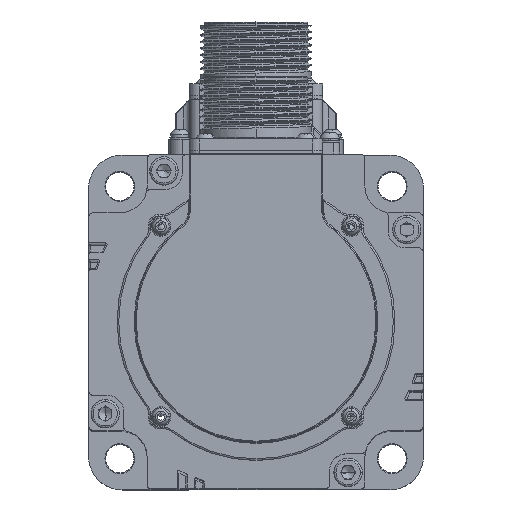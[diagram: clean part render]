
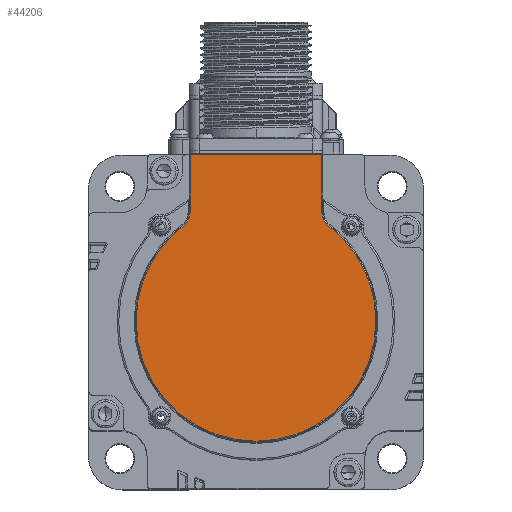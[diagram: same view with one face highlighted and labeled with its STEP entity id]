
A CAD part, top view. The second image highlights one B-rep face of the part: STEP entity #44206.
In plain terms, the highlighted planar face has unit normal (0, 0, 1).
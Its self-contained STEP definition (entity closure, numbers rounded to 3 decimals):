
#1276 = DIRECTION ( 'NONE',  ( 0., 0., 1. ) ) ;
#2215 = PLANE ( 'NONE',  #3202 ) ;
#2814 = EDGE_LOOP ( 'NONE', ( #78165, #70799, #22228, #91871, #25079, #83048, #26451, #65928 ) ) ;
#3202 = AXIS2_PLACEMENT_3D ( 'NONE', #17427, #1276, #9098 ) ;
#5188 = DIRECTION ( 'NONE',  ( 1., 0., 0. ) ) ;
#6034 = DIRECTION ( 'NONE',  ( 1., 0., 0. ) ) ;
#8591 = EDGE_CURVE ( 'NONE', #83988, #40283, #94898, .T. ) ;
#9098 = DIRECTION ( 'NONE',  ( 1., 0., 0. ) ) ;
#11658 = DIRECTION ( 'NONE',  ( 0., 1., 0. ) ) ;
#13100 = CARTESIAN_POINT ( 'NONE',  ( -51.772, -9.741, 336.1 ) ) ;
#17427 = CARTESIAN_POINT ( 'NONE',  ( -51.772, -9.741, 336.1 ) ) ;
#19198 = AXIS2_PLACEMENT_3D ( 'NONE', #87161, #81250, #72455 ) ;
#20297 = CARTESIAN_POINT ( 'NONE',  ( -87.572, -9.741, 336.1 ) ) ;
#22120 = CARTESIAN_POINT ( 'NONE',  ( -71.472, 22.881, 336.1 ) ) ;
#22228 = ORIENTED_EDGE ( 'NONE', *, *, #56326, .T. ) ;
#22442 = CIRCLE ( 'NONE', #88054, 35.8 ) ;
#23991 = CARTESIAN_POINT ( 'NONE',  ( -15.972, -9.741, 336.1 ) ) ;
#25079 = ORIENTED_EDGE ( 'NONE', *, *, #63163, .T. ) ;
#26451 = ORIENTED_EDGE ( 'NONE', *, *, #8591, .T. ) ;
#27186 = DIRECTION ( 'NONE',  ( 0., 0., 1. ) ) ;
#29954 = CARTESIAN_POINT ( 'NONE',  ( -51.772, -9.741, 336.1 ) ) ;
#30596 = CARTESIAN_POINT ( 'NONE',  ( -71.772, 39.959, 336.1 ) ) ;
#32761 = CARTESIAN_POINT ( 'NONE',  ( -32.072, 40.259, 336.1 ) ) ;
#35222 = EDGE_CURVE ( 'NONE', #40283, #84723, #77268, .T. ) ;
#37137 = VECTOR ( 'NONE', #11658, 1000. ) ;
#37537 = AXIS2_PLACEMENT_3D ( 'NONE', #13100, #72749, #5188 ) ;
#40099 = CARTESIAN_POINT ( 'NONE',  ( -73.549, 18.674, 336.1 ) ) ;
#40283 = VERTEX_POINT ( 'NONE', #54422 ) ;
#42235 = VERTEX_POINT ( 'NONE', #23991 ) ;
#44048 = EDGE_CURVE ( 'NONE', #80096, #84763, #76591, .T. ) ;
#44206 = ADVANCED_FACE ( 'NONE', ( #83973 ), #2215, .T. ) ;
#46108 = CARTESIAN_POINT ( 'NONE',  ( -71.472, 39.959, 336.1 ) ) ;
#47655 = VERTEX_POINT ( 'NONE', #46108 ) ;
#50208 = CARTESIAN_POINT ( 'NONE',  ( -29.996, 18.674, 336.1 ) ) ;
#52037 = DIRECTION ( 'NONE',  ( 0., 0., 1. ) ) ;
#52735 = VECTOR ( 'NONE', #73184, 1000. ) ;
#53021 = CIRCLE ( 'NONE', #87316, 35.8 ) ;
#53641 = CIRCLE ( 'NONE', #19198, 5.3 ) ;
#54422 = CARTESIAN_POINT ( 'NONE',  ( -32.072, 22.881, 336.1 ) ) ;
#55510 = EDGE_CURVE ( 'NONE', #47655, #73813, #63100, .T. ) ;
#56326 = EDGE_CURVE ( 'NONE', #73813, #80096, #53641, .T. ) ;
#59808 = DIRECTION ( 'NONE',  ( 1., 0., 0. ) ) ;
#63100 = LINE ( 'NONE', #85639, #87801 ) ;
#63163 = EDGE_CURVE ( 'NONE', #84763, #42235, #53021, .T. ) ;
#64277 = EDGE_CURVE ( 'NONE', #84723, #47655, #74153, .T. ) ;
#65928 = ORIENTED_EDGE ( 'NONE', *, *, #35222, .T. ) ;
#69509 = DIRECTION ( 'NONE',  ( 0., -1., 0. ) ) ;
#70799 = ORIENTED_EDGE ( 'NONE', *, *, #55510, .T. ) ;
#71248 = DIRECTION ( 'NONE',  ( 1., 0., 0. ) ) ;
#72455 = DIRECTION ( 'NONE',  ( 1., 0., 0. ) ) ;
#72641 = CARTESIAN_POINT ( 'NONE',  ( -32.072, 39.959, 336.1 ) ) ;
#72749 = DIRECTION ( 'NONE',  ( 0., 0., 1. ) ) ;
#73184 = DIRECTION ( 'NONE',  ( -1., 0., 0. ) ) ;
#73813 = VERTEX_POINT ( 'NONE', #22120 ) ;
#74153 = LINE ( 'NONE', #30596, #52735 ) ;
#76591 = CIRCLE ( 'NONE', #37537, 35.8 ) ;
#77268 = LINE ( 'NONE', #32761, #37137 ) ;
#77356 = EDGE_CURVE ( 'NONE', #42235, #83988, #22442, .T. ) ;
#78165 = ORIENTED_EDGE ( 'NONE', *, *, #64277, .T. ) ;
#80096 = VERTEX_POINT ( 'NONE', #40099 ) ;
#81250 = DIRECTION ( 'NONE',  ( 0., 0., -1. ) ) ;
#81390 = CARTESIAN_POINT ( 'NONE',  ( -26.772, 22.881, 336.1 ) ) ;
#83048 = ORIENTED_EDGE ( 'NONE', *, *, #77356, .T. ) ;
#83973 = FACE_OUTER_BOUND ( 'NONE', #2814, .T. ) ;
#83988 = VERTEX_POINT ( 'NONE', #50208 ) ;
#84044 = AXIS2_PLACEMENT_3D ( 'NONE', #81390, #89229, #6034 ) ;
#84723 = VERTEX_POINT ( 'NONE', #72641 ) ;
#84763 = VERTEX_POINT ( 'NONE', #20297 ) ;
#85639 = CARTESIAN_POINT ( 'NONE',  ( -71.472, 22.881, 336.1 ) ) ;
#86414 = CARTESIAN_POINT ( 'NONE',  ( -51.772, -9.741, 336.1 ) ) ;
#87161 = CARTESIAN_POINT ( 'NONE',  ( -76.772, 22.881, 336.1 ) ) ;
#87316 = AXIS2_PLACEMENT_3D ( 'NONE', #86414, #27186, #71248 ) ;
#87801 = VECTOR ( 'NONE', #69509, 1000. ) ;
#88054 = AXIS2_PLACEMENT_3D ( 'NONE', #29954, #52037, #59808 ) ;
#89229 = DIRECTION ( 'NONE',  ( 0., 0., -1. ) ) ;
#91871 = ORIENTED_EDGE ( 'NONE', *, *, #44048, .T. ) ;
#94898 = CIRCLE ( 'NONE', #84044, 5.3 ) ;
